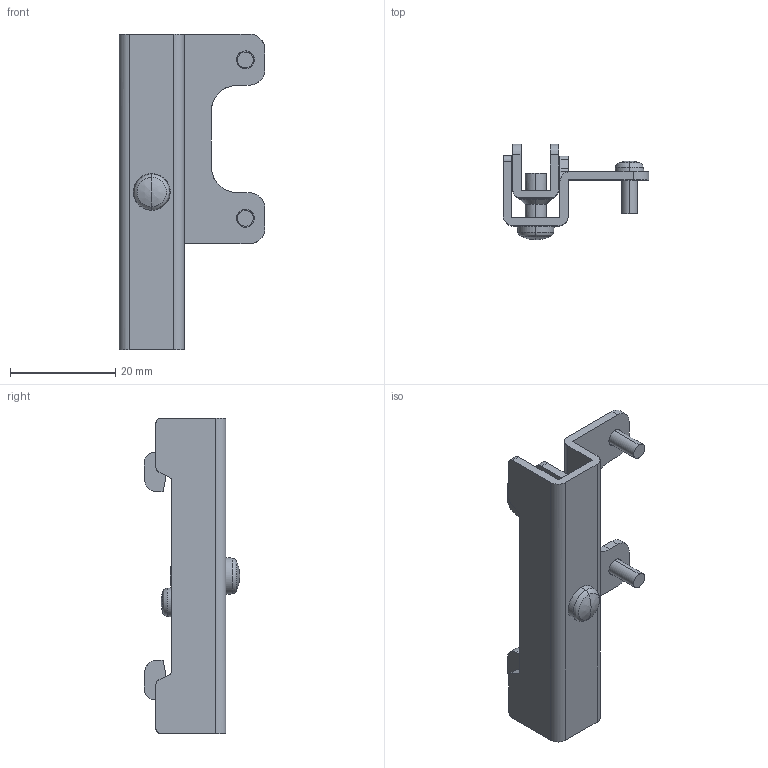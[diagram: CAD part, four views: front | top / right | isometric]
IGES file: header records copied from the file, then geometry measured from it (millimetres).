
Start section: ------------------------------------------------------------------------
Bounding box: 27.7 x 18.1 x 60 mm (x, y, z)
Volume: 5058 mm3; surface area: 6964.7 mm2
Topology: 1 solids, 1 shells, 131 faces, 351 edges, 225 vertices
Faces by surface type: bspline 131
